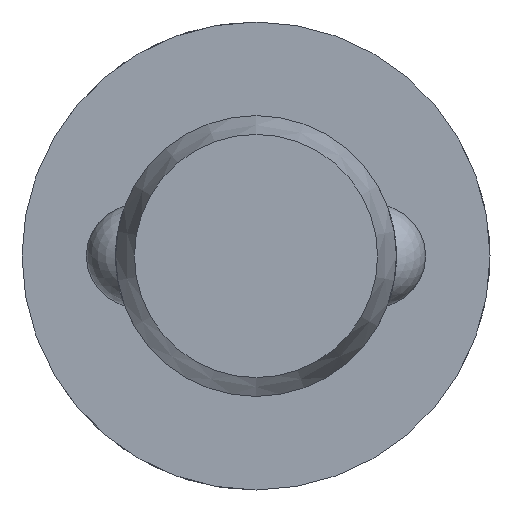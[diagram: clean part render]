
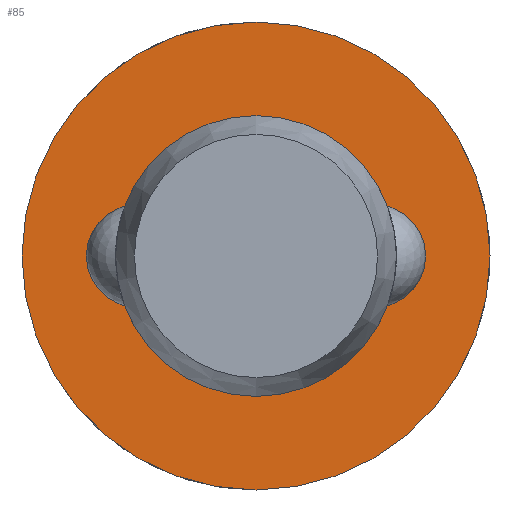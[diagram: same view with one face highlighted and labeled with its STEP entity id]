
A CAD part, left-side view. The second image highlights one B-rep face of the part: STEP entity #85.
In plain terms, the highlighted planar face has unit normal (-1, 0, 0).
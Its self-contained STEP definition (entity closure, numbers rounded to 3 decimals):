
#85 = ADVANCED_FACE( '', ( #130, #131 ), #132, .F. );
#130 = FACE_OUTER_BOUND( '', #201, .T. );
#131 = FACE_BOUND( '', #202, .T. );
#132 = PLANE( '', #203 );
#201 = EDGE_LOOP( '', ( #317 ) );
#202 = EDGE_LOOP( '', ( #318 ) );
#203 = AXIS2_PLACEMENT_3D( '', #319, #320, #321 );
#317 = ORIENTED_EDGE( '', *, *, #461, .F. );
#318 = ORIENTED_EDGE( '', *, *, #458, .T. );
#319 = CARTESIAN_POINT( '', ( 35.6, 6., 0. ) );
#320 = DIRECTION( '', ( 1., 0., 0. ) );
#321 = DIRECTION( '', ( 0., 0., -1. ) );
#458 = EDGE_CURVE( '', #532, #532, #533, .T. );
#461 = EDGE_CURVE( '', #538, #538, #539, .T. );
#532 = VERTEX_POINT( '', #742 );
#533 = CIRCLE( '', #743, 6. );
#538 = VERTEX_POINT( '', #858 );
#539 = CIRCLE( '', #859, 10. );
#742 = CARTESIAN_POINT( '', ( 35.6, 0., -6. ) );
#743 = AXIS2_PLACEMENT_3D( '', #936, #937, #938 );
#858 = CARTESIAN_POINT( '', ( 35.6, 0., -10. ) );
#859 = AXIS2_PLACEMENT_3D( '', #939, #940, #941 );
#936 = CARTESIAN_POINT( '', ( 35.6, 0., 0. ) );
#937 = DIRECTION( '', ( 1., 0., 0. ) );
#938 = DIRECTION( '', ( 0., 0., -1. ) );
#939 = CARTESIAN_POINT( '', ( 35.6, 0., 0. ) );
#940 = DIRECTION( '', ( 1., 0., 0. ) );
#941 = DIRECTION( '', ( 0., 0., -1. ) );
